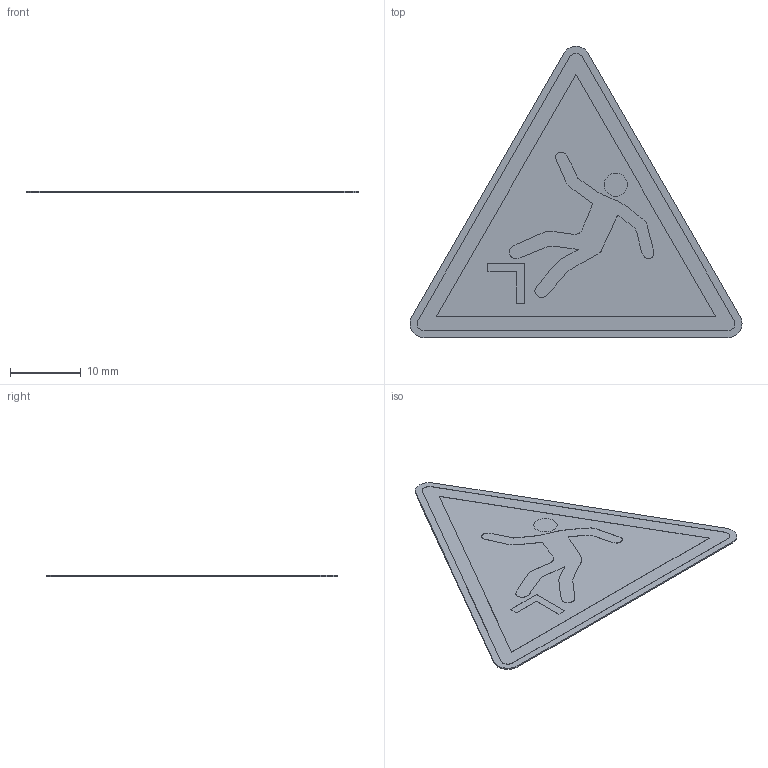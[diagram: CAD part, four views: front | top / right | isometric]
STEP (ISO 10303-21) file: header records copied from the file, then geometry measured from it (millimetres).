
FILE_DESCRIPTION (( 'STEP AP214' ), '1' );
FILE_NAME ('W008_Warnung vor Absturzgefahr.STEP', '2022-02-22T08:11:24', ( '' ), ( '' ), 'SwSTEP 2.0', 'SolidWorks 2021', '' );
FILE_SCHEMA (( 'AUTOMOTIVE_DESIGN' ));
Length unit declared in the file: millimetre
Products named in the file (1): W008_Warnung vor Absturzgefahr
Bounding box: 47.07 x 41.3 x 0.22 mm (x, y, z)
Volume: 221.1 mm3; surface area: 2183.6 mm2
Topology: 1 solids, 1 shells, 36 faces, 87 edges, 58 vertices
Faces by surface type: plane 22, cylinder 10, bspline 4
Entity records: 1807 total; most frequent: CARTESIAN_POINT 646, ORIENTED_EDGE 174, DIRECTION 165, EDGE_CURVE 87, LINE 59, VECTOR 59, VERTEX_POINT 58, AXIS2_PLACEMENT_3D 53
